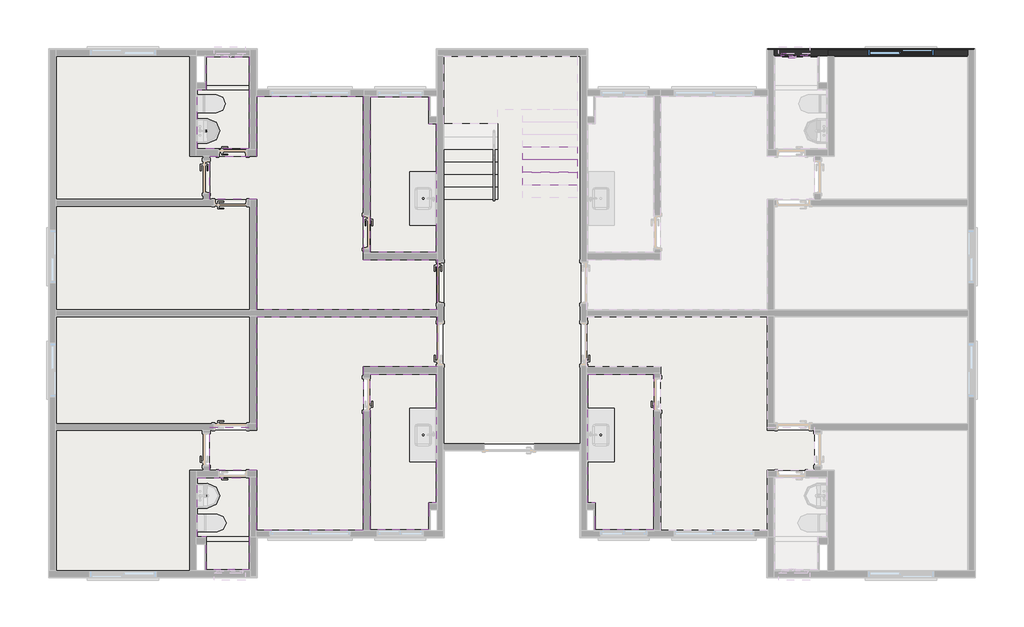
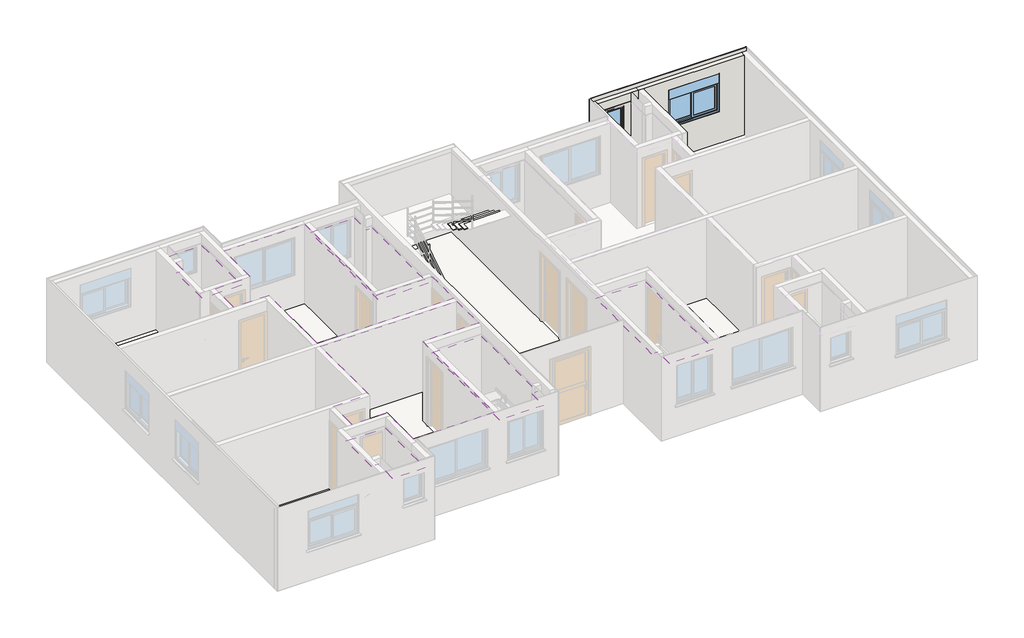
# One storey, part 10 of 11: 27 slabs, 7 coverings, 5 walls, 2 windows.
"""IFC4 building model written with IfcOpenShell, lengths in millimetres."""

from ifc_helpers import new_model, si_unit, frame, origin, origin_with_axes, place, context, project, spatial, polyline, outline, extrude, faceted_brep, transform, mapped, element, save
from components import window_150x120_581fea6a, window_60x80_d31b0025

model = new_model("IFC4")

# Units and contexts
model_context = context("Model", 3, world=origin())
ifc_project = project(units=[si_unit("LENGTHUNIT", "METRE", prefix="MILLI")], contexts=[model_context])

# Site, building, storey
site = spatial("IfcSite", under=ifc_project)
building = spatial("IfcBuilding", under=site)
storey = spatial("IfcBuildingStorey", under=building, Name="Térreo", Elevation=0.0)

# Coverings
placement = place(None, origin())
element("IfcCovering", 1, ObjectType="Forro - Gesso acartonado + Pintura", at=placement, inside=storey, context=model_context, shape_type="Brep", body=[
    faceted_brep([(8536.99631, 1539.9983274, 2201.0), (7233.0017324, 1539.9983274, 2201.0), (7233.0017324, 2145.0132549, 2201.0), (7233.0017324, 5033.6603139, 2201.0), (8709.9963008, 5033.6603139, 2201.0), (8709.9963008, 2145.0132549, 2201.0), (8536.99631, 2145.0132549, 2201.0), (7233.0017324, 1539.9983274, 2221.0), (8536.99631, 1539.9983274, 2221.0), (8536.99631, 2145.0132549, 2221.0), (8709.9963008, 2145.0132549, 2221.0), (8709.9963008, 5033.6603139, 2221.0), (7233.0017324, 5033.6603139, 2221.0), (7233.0017324, 2145.0132549, 2221.0)], [[[0, 1, 2, 3, 4, 5, 6]], [[7, 8, 9, 10, 11, 12, 13]], [[8, 7, 1, 0]], [[9, 8, 0, 6]], [[10, 9, 6, 5]], [[11, 10, 5, 4]], [[12, 11, 4, 3]], [[7, 13, 12, 3, 2, 1]]]),
    faceted_brep([(7233.0017324, 1539.9983274, 2200.0), (8536.99631, 1539.9983274, 2200.0), (8536.99631, 1539.9983274, 2201.0), (7233.0017324, 1539.9983274, 2201.0), (8536.99631, 2145.0132549, 2200.0), (8536.99631, 2145.0132549, 2201.0), (8709.9963008, 2145.0132549, 2200.0), (8709.9963008, 2145.0132549, 2201.0), (8709.9963008, 5033.6603139, 2200.0), (8709.9963008, 5033.6603139, 2201.0), (7233.0017324, 5033.6603139, 2200.0), (7233.0017324, 5033.6603139, 2201.0), (7233.0017324, 2145.0132549, 2200.0), (7233.0017324, 2145.0132549, 2201.0)], [[[0, 1, 2, 3]], [[1, 4, 5, 2]], [[4, 6, 7, 5]], [[6, 8, 9, 7]], [[8, 10, 11, 9]], [[12, 0, 3, 13, 11, 10]], [[3, 2, 5, 7, 9, 11, 13]], [[0, 12, 10, 8, 6, 4, 1]]]),
])
element("IfcCovering", 2, ObjectType="Forro - Gesso acartonado + Pintura", at=placement, inside=storey, context=model_context, shape_type="Brep", body=[
    faceted_brep([(7233.0017324, 11260.0223004, 2201.0), (8536.99631, 11260.0223004, 2201.0), (8536.99631, 10655.0073729, 2201.0), (8709.9963008, 10655.0073729, 2201.0), (8709.9963008, 7766.3603139, 2201.0), (7233.0017324, 7766.3603139, 2201.0), (7233.0017324, 10655.0073729, 2201.0), (7233.0017324, 11260.0223004, 2221.0), (7233.0017324, 10655.0073729, 2221.0), (7233.0017324, 7766.3603139, 2221.0), (8709.9963008, 7766.3603139, 2221.0), (8709.9963008, 10655.0073729, 2221.0), (8536.99631, 10655.0073729, 2221.0), (8536.99631, 11260.0223004, 2221.0)], [[[0, 1, 2, 3, 4, 5, 6]], [[7, 8, 9, 10, 11, 12, 13]], [[7, 13, 1, 0]], [[13, 12, 2, 1]], [[12, 11, 3, 2]], [[11, 10, 4, 3]], [[10, 9, 5, 4]], [[9, 8, 7, 0, 6, 5]]]),
    faceted_brep([(8536.99631, 11260.0223004, 2200.0), (7233.0017324, 11260.0223004, 2200.0), (7233.0017324, 11260.0223004, 2201.0), (8536.99631, 11260.0223004, 2201.0), (8536.99631, 10655.0073729, 2200.0), (8536.99631, 10655.0073729, 2201.0), (8709.9963008, 10655.0073729, 2200.0), (8709.9963008, 10655.0073729, 2201.0), (8709.9963008, 7766.3603139, 2200.0), (8709.9963008, 7766.3603139, 2201.0), (7233.0017324, 7766.3603139, 2200.0), (7233.0017324, 7766.3603139, 2201.0), (7233.0017324, 10655.0073729, 2200.0), (7233.0017324, 10655.0073729, 2201.0)], [[[0, 1, 2, 3]], [[4, 0, 3, 5]], [[6, 4, 5, 7]], [[8, 6, 7, 9]], [[10, 8, 9, 11]], [[12, 10, 11, 13, 2, 1]], [[3, 2, 13, 11, 9, 7, 5]], [[1, 0, 4, 6, 8, 10, 12]]]),
])
element("IfcCovering", 3, ObjectType="Forro - Gesso acartonado + Pintura", at=placement, inside=storey, context=model_context, shape_type="Brep", body=[
    faceted_brep([(3339.9976538, 2709.9967615, 2201.0), (4509.9990083, 2709.9967615, 2201.0), (4509.9990083, 1379.9983274, 2201.0), (4509.9990083, 639.9950349, 2201.0), (3549.99398, 639.9950349, 2201.0), (3549.99398, 1379.9983274, 2201.0), (3339.9976538, 1379.9983274, 2201.0), (4509.9990083, 2709.9967615, 2221.0), (3339.9976538, 2709.9967615, 2221.0), (3339.9976538, 1379.9983274, 2221.0), (3549.99398, 1379.9983274, 2221.0), (3549.99398, 639.9950349, 2221.0), (4509.9990083, 639.9950349, 2221.0), (4509.9990083, 1379.9983274, 2221.0)], [[[0, 1, 2, 3, 4, 5, 6]], [[7, 8, 9, 10, 11, 12, 13]], [[8, 7, 1, 0]], [[9, 8, 0, 6]], [[10, 9, 6, 5]], [[11, 10, 5, 4]], [[12, 11, 4, 3]], [[7, 13, 12, 3, 2, 1]]]),
    faceted_brep([(4509.9990083, 2709.9967615, 2200.0), (3339.9976538, 2709.9967615, 2200.0), (3339.9976538, 2709.9967615, 2201.0), (4509.9990083, 2709.9967615, 2201.0), (3339.9976538, 1379.9983274, 2200.0), (3339.9976538, 1379.9983274, 2201.0), (3549.99398, 1379.9983274, 2200.0), (3549.99398, 1379.9983274, 2201.0), (3549.99398, 639.9950349, 2200.0), (3549.99398, 639.9950349, 2201.0), (4509.9990083, 639.9950349, 2200.0), (4509.9990083, 639.9950349, 2201.0), (4509.9990083, 1379.9983274, 2200.0), (4509.9990083, 1379.9983274, 2201.0)], [[[0, 1, 2, 3]], [[1, 4, 5, 2]], [[4, 6, 7, 5]], [[6, 8, 9, 7]], [[8, 10, 11, 9]], [[12, 0, 3, 13, 11, 10]], [[3, 2, 5, 7, 9, 11, 13]], [[0, 12, 10, 8, 6, 4, 1]]]),
])
element("IfcCovering", 4, ObjectType="Forro - Gesso acartonado + Pintura", at=placement, inside=storey, context=model_context, shape_type="Brep", body=[
    faceted_brep([(4509.9990083, 10090.0238664, 2201.0), (3339.9976538, 10090.0238664, 2201.0), (3339.9976538, 11420.0223004, 2201.0), (3549.99398, 11420.0223004, 2201.0), (3549.99398, 12160.025593, 2201.0), (4509.9990083, 12160.025593, 2201.0), (4509.9990083, 11420.0223004, 2201.0), (4509.9990083, 10090.0238664, 2221.0), (4509.9990083, 11420.0223004, 2221.0), (4509.9990083, 12160.025593, 2221.0), (3549.99398, 12160.025593, 2221.0), (3549.99398, 11420.0223004, 2221.0), (3339.9976538, 11420.0223004, 2221.0), (3339.9976538, 10090.0238664, 2221.0)], [[[0, 1, 2, 3, 4, 5, 6]], [[7, 8, 9, 10, 11, 12, 13]], [[7, 13, 1, 0]], [[13, 12, 2, 1]], [[12, 11, 3, 2]], [[11, 10, 4, 3]], [[10, 9, 5, 4]], [[9, 8, 7, 0, 6, 5]]]),
    faceted_brep([(3339.9976538, 10090.0238664, 2200.0), (4509.9990083, 10090.0238664, 2200.0), (4509.9990083, 10090.0238664, 2201.0), (3339.9976538, 10090.0238664, 2201.0), (3339.9976538, 11420.0223004, 2200.0), (3339.9976538, 11420.0223004, 2201.0), (3549.99398, 11420.0223004, 2200.0), (3549.99398, 11420.0223004, 2201.0), (3549.99398, 12160.025593, 2200.0), (3549.99398, 12160.025593, 2201.0), (4509.9990083, 12160.025593, 2200.0), (4509.9990083, 12160.025593, 2201.0), (4509.9990083, 11420.0223004, 2200.0), (4509.9990083, 11420.0223004, 2201.0)], [[[0, 1, 2, 3]], [[4, 0, 3, 5]], [[6, 4, 5, 7]], [[8, 6, 7, 9]], [[10, 8, 9, 11]], [[12, 10, 11, 13, 2, 1]], [[3, 2, 13, 11, 9, 7, 5]], [[1, 0, 4, 6, 8, 10, 12]]]),
])
element("IfcCovering", 5, ObjectType="Forro - Gesso acartonado + Pintura", at=placement, inside=storey, context=model_context, shape_type="Brep", body=[
    faceted_brep([(13586.992975, 1539.9983274, 2201.0), (12282.9983974, 1539.9983274, 2201.0), (12282.9983974, 2145.0132549, 2201.0), (12109.9984066, 2145.0132549, 2201.0), (12109.9984066, 5033.6603139, 2201.0), (13586.992975, 5033.6603139, 2201.0), (13586.992975, 2145.0132549, 2201.0), (13586.992975, 1539.9983274, 2221.0), (13586.992975, 2145.0132549, 2221.0), (13586.992975, 5033.6603139, 2221.0), (12109.9984066, 5033.6603139, 2221.0), (12109.9984066, 2145.0132549, 2221.0), (12282.9983974, 2145.0132549, 2221.0), (12282.9983974, 1539.9983274, 2221.0)], [[[0, 1, 2, 3, 4, 5, 6]], [[7, 8, 9, 10, 11, 12, 13]], [[7, 13, 1, 0]], [[13, 12, 2, 1]], [[12, 11, 3, 2]], [[11, 10, 4, 3]], [[10, 9, 5, 4]], [[9, 8, 7, 0, 6, 5]]]),
    faceted_brep([(12282.9983974, 1539.9983274, 2200.0), (13586.992975, 1539.9983274, 2200.0), (13586.992975, 1539.9983274, 2201.0), (12282.9983974, 1539.9983274, 2201.0), (12282.9983974, 2145.0132549, 2200.0), (12282.9983974, 2145.0132549, 2201.0), (12109.9984066, 2145.0132549, 2200.0), (12109.9984066, 2145.0132549, 2201.0), (12109.9984066, 5033.6603139, 2200.0), (12109.9984066, 5033.6603139, 2201.0), (13586.992975, 5033.6603139, 2200.0), (13586.992975, 5033.6603139, 2201.0), (13586.992975, 2145.0132549, 2200.0), (13586.992975, 2145.0132549, 2201.0)], [[[0, 1, 2, 3]], [[4, 0, 3, 5]], [[6, 4, 5, 7]], [[8, 6, 7, 9]], [[10, 8, 9, 11]], [[12, 10, 11, 13, 2, 1]], [[3, 2, 13, 11, 9, 7, 5]], [[1, 0, 4, 6, 8, 10, 12]]]),
])
element("IfcCovering", 6, ObjectType="Textura Laje", at=placement, inside=storey, context=model_context, shape_type="SolidModel", body=[
    faceted_brep([(4675.9996867, 8956.0244803, 2510.0), (4675.9996867, 6476.0103139, 2510.0), (8729.9963008, 6476.0103139, 2510.0), (8729.9963008, 7600.3603139, 2510.0), (8709.865378, 7600.3603139, 2510.0), (7066.9986861, 7600.3603139, 2510.0), (7066.9986861, 11274.0223004, 2510.0), (4675.9990083, 11274.0223004, 2510.0), (4675.9990083, 9924.0238664, 2510.0), (3625.9980641, 9924.0238664, 2510.0), (3625.9980641, 8956.0244803, 2510.0), (4675.9996867, 6476.0103139, 2509.0), (4675.9996867, 8956.0244803, 2509.0), (3625.9980641, 8956.0244803, 2509.0), (3625.9980641, 9924.0238664, 2509.0), (4675.9990083, 9924.0238664, 2509.0), (4675.9990083, 11274.0223004, 2509.0), (7066.9986861, 11274.0223004, 2509.0), (7066.9986861, 7600.3603139, 2509.0), (8709.865378, 7600.3603139, 2509.0), (8729.9963008, 7600.3603139, 2509.0), (8729.9963008, 6476.0103139, 2509.0)], [[[0, 1, 2, 3, 4, 5, 6, 7, 8, 9, 10]], [[11, 12, 13, 14, 15, 16, 17, 18, 19, 20, 21]], [[1, 0, 12, 11]], [[2, 1, 11, 21]], [[3, 2, 21, 20]], [[5, 4, 3, 20, 19, 18]], [[6, 5, 18, 17]], [[7, 6, 17, 16]], [[8, 7, 16, 15]], [[9, 8, 15, 14]], [[10, 9, 14, 13]], [[0, 10, 13, 12]]]),
    extrude(outline(polyline([(174.9992567, 6475.0103139), (174.9992567, 8805.0103139), (4524.9996867, 8805.0103139), (4524.9996867, 6475.0103139), (174.9992567, 6475.0103139)])), frame((0.0, 0.0, 2509.0), z_axis=(0.0, 0.0, 1.0), x_axis=(1.0, 0.0, 0.0)), (0.0, 0.0, 1.0), 1.0),
    extrude(outline(polyline([(174.9991825, 12175.0252435), (3174.9977061, 12175.0252435), (3174.9977061, 9925.0238664), (3474.9980641, 9925.0238664), (3474.9980641, 8955.0254246), (174.9991825, 8955.0254246), (174.9991825, 12175.0252435)])), frame((0.0, 0.0, 2509.0), z_axis=(0.0, 0.0, 1.0), x_axis=(1.0, 0.0, 0.0)), (0.0, 0.0, 1.0), 1.0),
    faceted_brep([(4675.9996867, 8956.0244803, 2508.0), (3625.9980641, 8956.0244803, 2508.0), (3625.9980641, 9924.0238664, 2508.0), (4675.9990083, 9924.0238664, 2508.0), (4675.9990083, 11274.0223004, 2508.0), (7066.9986861, 11274.0223004, 2508.0), (7066.9986861, 7600.3603139, 2508.0), (8709.865378, 7600.3603139, 2508.0), (8729.9963008, 7600.3603139, 2508.0), (8729.9963008, 6476.0103139, 2508.0), (4675.9996867, 6476.0103139, 2508.0), (4675.9996867, 8956.0244803, 2509.0), (4675.9996867, 6476.0103139, 2509.0), (8729.9963008, 6476.0103139, 2509.0), (8729.9963008, 7600.3603139, 2509.0), (8709.865378, 7600.3603139, 2509.0), (7066.9986861, 7600.3603139, 2509.0), (7066.9986861, 11274.0223004, 2509.0), (4675.9990083, 11274.0223004, 2509.0), (4675.9990083, 9924.0238664, 2509.0), (3625.9980641, 9924.0238664, 2509.0), (3625.9980641, 8956.0244803, 2509.0)], [[[0, 1, 2, 3, 4, 5, 6, 7, 8, 9, 10]], [[11, 12, 13, 14, 15, 16, 17, 18, 19, 20, 21]], [[0, 10, 12, 11]], [[10, 9, 13, 12]], [[9, 8, 14, 13]], [[7, 6, 16, 15, 14, 8]], [[6, 5, 17, 16]], [[5, 4, 18, 17]], [[4, 3, 19, 18]], [[3, 2, 20, 19]], [[2, 1, 21, 20]], [[1, 0, 11, 21]]]),
    extrude(outline(polyline([(174.9992567, 8805.0103139), (4524.9996867, 8805.0103139), (4524.9996867, 6475.0103139), (174.9992567, 6475.0103139), (174.9992567, 8805.0103139)])), frame((0.0, 0.0, 2508.0), z_axis=(0.0, 0.0, 1.0), x_axis=(1.0, 0.0, 0.0)), (0.0, 0.0, 1.0), 1.0),
    extrude(outline(polyline([(174.9991825, 12175.0252435), (3174.9977061, 12175.0252435), (3174.9977061, 9925.0238664), (3474.9980641, 9925.0238664), (3474.9980641, 8955.0254246), (174.9991825, 8955.0254246), (174.9991825, 12175.0252435)])), frame((0.0, 0.0, 2508.0), z_axis=(0.0, 0.0, 1.0), x_axis=(1.0, 0.0, 0.0)), (0.0, 0.0, 1.0), 1.0),
])
element("IfcCovering", 7, ObjectType="Textura Laje", at=placement, inside=storey, context=model_context, shape_type="SolidModel", body=[
    faceted_brep([(4675.9996867, 3843.9961476, 2510.0), (4675.9996867, 6324.0103139, 2510.0), (4675.9996867, 6324.0103139, 2509.0), (4675.9996867, 3843.9961476, 2509.0), (8729.9963008, 6324.0103139, 2510.0), (8729.9963008, 6324.0103139, 2509.0), (8729.9963008, 5199.6603139, 2510.0), (8729.9963008, 5199.6603139, 2509.0), (7066.9986861, 5199.6603139, 2510.0), (7066.9986861, 1525.9983274, 2510.0), (7066.9986861, 1525.9983274, 2509.0), (7066.9986861, 5199.6603139, 2509.0), (4675.9990083, 1525.9983274, 2510.0), (4675.9990083, 1525.9983274, 2509.0), (4675.9990083, 2875.9967615, 2510.0), (4675.9990083, 2875.9967615, 2509.0), (3625.9980641, 2875.9967615, 2510.0), (3625.9980641, 2875.9967615, 2509.0), (3625.9980641, 3843.9961476, 2510.0), (3625.9980641, 3843.9961476, 2509.0), (8709.865378, 5199.6603139, 2510.0), (8709.865378, 5199.6603139, 2509.0)], [[[0, 1, 2, 3]], [[1, 4, 5, 2]], [[4, 6, 7, 5]], [[8, 9, 10, 11]], [[9, 12, 13, 10]], [[12, 14, 15, 13]], [[14, 16, 17, 15]], [[16, 18, 19, 17]], [[18, 0, 3, 19]], [[6, 20, 8, 11, 21, 7]], [[0, 18, 16, 14, 12, 9, 8, 20, 6, 4, 1]], [[3, 2, 5, 7, 21, 11, 10, 13, 15, 17, 19]]]),
    extrude(outline(polyline([(3174.9977061, 624.9953844), (175.9991825, 624.9953844), (175.9991825, 3773.9951411), (3474.9980641, 3773.9951411), (3474.9980641, 2874.9967615), (3174.9977061, 2874.9967615), (3174.9977061, 624.9953844)])), frame((0.0, 0.0, 2509.0), z_axis=(0.0, 0.0, 1.0), x_axis=(1.0, 0.0, 0.0)), (0.0, 0.0, 1.0), 1.0),
    extrude(outline(polyline([(174.9992567, 3926.5903488), (174.9992567, 6325.0103139), (4524.9996867, 6325.0103139), (4524.9996867, 3926.5903488), (174.9992567, 3926.5903488)])), frame((0.0, 0.0, 2509.0), z_axis=(0.0, 0.0, 1.0), x_axis=(1.0, 0.0, 0.0)), (0.0, 0.0, 1.0), 1.0),
    faceted_brep([(4675.9996867, 6324.0103139, 2508.0), (4675.9996867, 3843.9961476, 2508.0), (4675.9996867, 3843.9961476, 2509.0), (4675.9996867, 6324.0103139, 2509.0), (8729.9963008, 6324.0103139, 2508.0), (8729.9963008, 6324.0103139, 2509.0), (8729.9963008, 5199.6603139, 2508.0), (8729.9963008, 5199.6603139, 2509.0), (7066.9986861, 1525.9983274, 2508.0), (7066.9986861, 5199.6603139, 2508.0), (7066.9986861, 5199.6603139, 2509.0), (7066.9986861, 1525.9983274, 2509.0), (4675.9990083, 1525.9983274, 2508.0), (4675.9990083, 1525.9983274, 2509.0), (4675.9990083, 2875.9967615, 2508.0), (4675.9990083, 2875.9967615, 2509.0), (3625.9980641, 2875.9967615, 2508.0), (3625.9980641, 2875.9967615, 2509.0), (3625.9980641, 3843.9961476, 2508.0), (3625.9980641, 3843.9961476, 2509.0), (8709.865378, 5199.6603139, 2508.0), (8709.865378, 5199.6603139, 2509.0)], [[[0, 1, 2, 3]], [[4, 0, 3, 5]], [[6, 4, 5, 7]], [[8, 9, 10, 11]], [[12, 8, 11, 13]], [[14, 12, 13, 15]], [[16, 14, 15, 17]], [[18, 16, 17, 19]], [[1, 18, 19, 2]], [[1, 0, 4, 6, 20, 9, 8, 12, 14, 16, 18]], [[20, 6, 7, 21, 10, 9]], [[3, 2, 19, 17, 15, 13, 11, 10, 21, 7, 5]]]),
    extrude(outline(polyline([(174.9992567, 3926.5903488), (174.9992567, 6325.0103139), (4524.9996867, 6325.0103139), (4524.9996867, 3926.5903488), (174.9992567, 3926.5903488)])), frame((0.0, 0.0, 2508.0), z_axis=(0.0, 0.0, 1.0), x_axis=(1.0, 0.0, 0.0)), (0.0, 0.0, 1.0), 1.0),
    extrude(outline(polyline([(175.9991825, 624.9953844), (175.9991825, 3773.9951411), (3474.9980641, 3773.9951411), (3474.9980641, 2874.9967615), (3174.9977061, 2874.9967615), (3174.9977061, 624.9953844), (175.9991825, 624.9953844)])), frame((0.0, 0.0, 2508.0), z_axis=(0.0, 0.0, 1.0), x_axis=(1.0, 0.0, 0.0)), (0.0, 0.0, 1.0), 1.0),
])

# Slabs
element("IfcSlab", 8, ObjectType="Pedra Basalto", at=placement, inside=storey, context=model_context, shape_type="SweptSolid", body=[
    extrude(outline(polyline([(4509.99398, 11515.0235306), (4509.99398, 11415.0235306), (3529.99398, 11415.0235306), (3529.99398, 11515.0235306), (4509.99398, 11515.0235306)])), frame((0.0, 0.0, 90.0), z_axis=(0.0, 0.0, 1.0), x_axis=(1.0, 0.0, 0.0)), (0.0, 0.0, 1.0), 20.0),
])
element("IfcSlab", 9, ObjectType="Cerâmica piso + Impermeabilização", at=placement, inside=storey, context=model_context, shape_type="SweptSolid", body=[
    extrude(outline(polyline([(4509.99398, 1294.9970972), (4509.99398, 639.9950349), (3549.99398, 639.9950349), (3549.99398, 1294.9970972), (4509.99398, 1294.9970972)])), frame((0.0, 0.0, -1.0), z_axis=(0.0, 0.0, 1.0), x_axis=(1.0, 0.0, 0.0)), (0.0, 0.0, 1.0), 11.0),
])
element("IfcSlab", 10, ObjectType="Pedra Basalto", at=placement, inside=storey, context=model_context, shape_type="SweptSolid", body=[
    extrude(outline(polyline([(4509.99398, 1284.9970972), (3529.99398, 1284.9970972), (3529.99398, 1384.9970972), (4509.99398, 1384.9970972), (4509.99398, 1284.9970972)])), frame((0.0, 0.0, 90.0), z_axis=(0.0, 0.0, 1.0), x_axis=(1.0, 0.0, 0.0)), (0.0, 0.0, 1.0), 20.0),
])
element("IfcSlab", 11, ObjectType="Cerâmica", at=placement, inside=storey, context=model_context, shape_type="SweptSolid", body=[
    extrude(outline(polyline([(4509.9990083, 1379.9970972), (3339.9976538, 1379.9970972), (3339.9976538, 2709.9967615), (4509.9990083, 2709.9967615), (4509.9990083, 1379.9970972)])), origin_with_axes(), (0.0, 0.0, 1.0), 10.0),
])
element("IfcSlab", 12, ObjectType="Cerâmica", at=placement, inside=storey, context=model_context, shape_type="SweptSolid", body=[
    extrude(outline(polyline([(8709.9963008, 5033.6603139), (8709.9963008, 2145.0132549), (8536.99631, 2145.0132549), (8536.99631, 1539.9983274), (7233.0017324, 1539.9983274), (7233.0017324, 2145.0132549), (7233.0017324, 5033.6603139), (8709.9963008, 5033.6603139)])), origin_with_axes(), (0.0, 0.0, 1.0), 10.0),
])
element("IfcSlab", 13, ObjectType="Cerâmica piso + Impermeabilização", at=placement, inside=storey, context=model_context, shape_type="SweptSolid", body=[
    extrude(outline(polyline([(4509.99398, 11505.0235306), (3549.99398, 11505.0235306), (3549.99398, 12160.025593), (4509.99398, 12160.025593), (4509.99398, 11505.0235306)])), frame((0.0, 0.0, -1.0), z_axis=(0.0, 0.0, 1.0), x_axis=(1.0, 0.0, 0.0)), (0.0, 0.0, 1.0), 11.0),
])
element("IfcSlab", 14, ObjectType="Cerâmica", at=placement, inside=storey, context=model_context, shape_type="SweptSolid", body=[
    extrude(outline(polyline([(4509.9990083, 11420.0235306), (4509.9990083, 10090.0238664), (3339.9976538, 10090.0238664), (3339.9976538, 11420.0235306), (4509.9990083, 11420.0235306)])), origin_with_axes(), (0.0, 0.0, 1.0), 10.0),
])
element("IfcSlab", 15, ObjectType="Cerâmica", at=placement, inside=storey, context=model_context, shape_type="SweptSolid", body=[
    extrude(outline(polyline([(8709.9963008, 7766.3603139), (7233.0017324, 7766.3603139), (7233.0017324, 10655.0073729), (7233.0017324, 11260.0223004), (8536.99631, 11260.0223004), (8536.99631, 10655.0073729), (8709.9963008, 10655.0073729), (8709.9963008, 7766.3603139)])), origin_with_axes(), (0.0, 0.0, 1.0), 10.0),
])
element("IfcSlab", 16, ObjectType="Cerâmica", at=placement, inside=storey, context=model_context, shape_type="SweptSolid", body=[
    extrude(outline(polyline([(8723.9963008, 6324.0103139), (8723.9963008, 5199.6603139), (7066.9986861, 5199.6603139), (7066.9986861, 1519.9983274), (4675.9990083, 1519.9983274), (4675.9990083, 2875.9967615), (3625.9980641, 2875.9967615), (3625.9980641, 3773.9951411), (4675.9996867, 3773.9951411), (4675.9996867, 6324.0103139), (8723.9963008, 6324.0103139)])), origin_with_axes(), (0.0, 0.0, 1.0), 10.0),
])
element("IfcSlab", 17, ObjectType="Vinilico", at=placement, inside=storey, context=model_context, shape_type="SweptSolid", body=[
    extrude(outline(polyline([(4523.9996867, 6324.0103139), (4523.9996867, 3925.9951411), (175.9991825, 3925.9951411), (175.9991825, 6324.0103139), (4523.9996867, 6324.0103139)])), origin_with_axes(), (0.0, 0.0, 1.0), 10.0),
])
element("IfcSlab", 18, ObjectType="Vinilico", at=placement, inside=storey, context=model_context, shape_type="SweptSolid", body=[
    extrude(outline(polyline([(4523.9996867, 8804.0244803), (4523.9996867, 6476.0103139), (175.9991825, 6476.0103139), (175.9991825, 8804.0244803), (4523.9996867, 8804.0244803)])), origin_with_axes(), (0.0, 0.0, 1.0), 10.0),
])
element("IfcSlab", 19, ObjectType="Cerâmica", at=placement, inside=storey, context=model_context, shape_type="SweptSolid", body=[
    extrude(outline(polyline([(8723.9963008, 6476.0103139), (4675.9996867, 6476.0103139), (4675.9996867, 8956.0244803), (3625.9980641, 8956.0244803), (3625.9980641, 9924.0238664), (4675.9990083, 9924.0238664), (4675.9990083, 11280.0223004), (7066.9986861, 11280.0223004), (7066.9986861, 7600.3603139), (8723.9963008, 7600.3603139), (8723.9963008, 6476.0103139)])), origin_with_axes(), (0.0, 0.0, 1.0), 10.0),
])
element("IfcSlab", 20, ObjectType="Vinilico", at=placement, inside=storey, context=model_context, shape_type="SweptSolid", body=[
    extrude(outline(polyline([(175.9991825, 12174.0253822), (3173.9976538, 12174.0253822), (3173.9976538, 9924.0253822), (3473.9976538, 9924.0253822), (3473.9976538, 8954.0253822), (175.9991825, 8954.0253822), (175.9991825, 12174.0253822)])), origin_with_axes(), (0.0, 0.0, 1.0), 10.0),
])
element("IfcSlab", 21, ObjectType="Vinilico", at=placement, inside=storey, context=model_context, shape_type="SweptSolid", body=[
    extrude(outline(polyline([(175.9991825, 625.9952456), (175.9991825, 3845.9952456), (3473.9976538, 3845.9952456), (3473.9976538, 2875.9952456), (3173.9976538, 2875.9952456), (3173.9976538, 625.9952456), (175.9991825, 625.9952456)])), origin_with_axes(), (0.0, 0.0, 1.0), 10.0),
])
element("IfcSlab", 22, ObjectType="Cerâmica", at=placement, inside=storey, context=model_context, shape_type="SweptSolid", body=[
    extrude(outline(polyline([(12109.9984066, 5033.6603139), (13586.992975, 5033.6603139), (13586.992975, 2145.0132549), (13586.992975, 1539.9983274), (12282.9983974, 1539.9983274), (12282.9983974, 2145.0132549), (12109.9984066, 2145.0132549), (12109.9984066, 5033.6603139)])), origin_with_axes(), (0.0, 0.0, 1.0), 10.0),
])
element("IfcSlab", 23, ObjectType="Cerâmica", at=placement, inside=storey, context=model_context, shape_type="SweptSolid", body=[
    extrude(outline(polyline([(12095.9984066, 6324.0103139), (16143.9950207, 6324.0103139), (16143.9950207, 3773.9951411), (17193.9966432, 3773.9951411), (17193.9966432, 2875.9967615), (16143.9956991, 2875.9967615), (16143.9956991, 1519.9983274), (13752.9960213, 1519.9983274), (13752.9960213, 5199.6603139), (12095.9984066, 5199.6603139), (12095.9984066, 6324.0103139)])), origin_with_axes(), (0.0, 0.0, 1.0), 10.0),
])
element("IfcSlab", 24, ObjectType="Soleira", at=placement, inside=storey, context=model_context, shape_type="SweptSolid", body=[
    extrude(outline(polyline([(4467.999908, 8956.0244803), (4467.999908, 8804.0244803), (3717.999908, 8804.0244803), (3717.999908, 8956.0244803), (4467.999908, 8956.0244803)])), origin_with_axes(), (0.0, 0.0, 1.0), 10.0),
])
element("IfcSlab", 25, ObjectType="Soleira", at=placement, inside=storey, context=model_context, shape_type="SweptSolid", body=[
    extrude(outline(polyline([(3625.9980641, 9832.0248023), (3625.9980641, 9082.0248023), (3473.9980641, 9082.0248023), (3473.9980641, 9832.0248023), (3625.9980641, 9832.0248023)])), origin_with_axes(), (0.0, 0.0, 1.0), 10.0),
    extrude(outline(polyline([(4462.9990083, 10090.0238664), (4462.9990083, 9924.0238664), (3812.9990083, 9924.0238664), (3812.9990083, 10090.0238664), (4462.9990083, 10090.0238664)])), origin_with_axes(), (0.0, 0.0, 1.0), 10.0),
])
element("IfcSlab", 26, ObjectType="Soleira", at=placement, inside=storey, context=model_context, shape_type="SweptSolid", body=[
    extrude(outline(polyline([(7233.0017324, 8596.3603139), (7233.0017324, 7846.3603139), (7066.9986861, 7846.3603139), (7066.9986861, 8596.3603139), (7233.0017324, 8596.3603139)])), origin_with_axes(), (0.0, 0.0, 1.0), 10.0),
    extrude(outline(polyline([(8723.9963008, 7560.0103139), (8875.9991022, 7560.0103139), (8875.9991022, 6610.0103139), (8723.9963008, 6610.0103139), (8723.9963008, 7560.0103139)])), origin_with_axes(), (0.0, 0.0, 1.0), 10.0),
])
element("IfcSlab", 27, ObjectType="Degrau escada", at=placement, inside=storey, context=model_context, shape_type="SweptSolid", body=[
    extrude(outline(polyline([(10094.9954646, 9535.5366253), (10094.9954646, 9240.5366053), (8879.9954646, 9240.5366053), (8879.9954646, 9535.5366253), (10094.9954646, 9535.5366253)])), frame((0.0, 0.0, 350.6), z_axis=(0.0, 0.0, 1.0), x_axis=(1.0, 0.0, 0.0)), (0.0, 0.0, 1.0), 20.0),
])
element("IfcSlab", 28, ObjectType="Degrau escada", at=placement, inside=storey, context=model_context, shape_type="SweptSolid", body=[
    extrude(outline(polyline([(10094.9954646, 9815.5366253), (10094.9954646, 9520.5366053), (8879.9954646, 9520.5366053), (8879.9954646, 9815.5366253), (10094.9954646, 9815.5366253)])), frame((0.0, 0.0, 525.9), z_axis=(0.0, 0.0, 1.0), x_axis=(1.0, 0.0, 0.0)), (0.0, 0.0, 1.0), 20.0),
])
element("IfcSlab", 29, ObjectType="Degrau escada", at=placement, inside=storey, context=model_context, shape_type="SweptSolid", body=[
    extrude(outline(polyline([(10094.9954646, 10095.5366253), (10094.9954646, 9800.5366053), (8879.9954646, 9800.5366053), (8879.9954646, 10095.5366253), (10094.9954646, 10095.5366253)])), frame((0.0, 0.0, 701.2), z_axis=(0.0, 0.0, 1.0), x_axis=(1.0, 0.0, 0.0)), (0.0, 0.0, 1.0), 20.0),
])
element("IfcSlab", 30, ObjectType="Degrau escada", at=placement, inside=storey, context=model_context, shape_type="SweptSolid", body=[
    extrude(outline(polyline([(10094.9954646, 9255.5366253), (10094.9954646, 8960.5366053), (8879.9954646, 8960.5366053), (8879.9954646, 9255.5366253), (10094.9954646, 9255.5366253)])), frame((0.0, 0.0, 175.3), z_axis=(0.0, 0.0, 1.0), x_axis=(1.0, 0.0, 0.0)), (0.0, 0.0, 1.0), 20.0),
])
element("IfcSlab", 31, ObjectType="Degrau escada", at=placement, inside=storey, context=model_context, shape_type="SweptSolid", body=[
    extrude(outline(polyline([(11869.9958537, 10139.9988327), (11869.9958537, 9844.9988127), (10654.9958537, 9844.9988127), (10654.9958537, 10139.9988327), (11869.9958537, 10139.9988327)])), frame((0.0, 0.0, 1928.3), z_axis=(0.0, 0.0, 1.0), x_axis=(1.0, 0.0, 0.0)), (0.0, 0.0, 1.0), 20.0),
])
element("IfcSlab", 32, ObjectType="Degrau escada", at=placement, inside=storey, context=model_context, shape_type="SweptSolid", body=[
    extrude(outline(polyline([(11869.9958537, 9854.9988327), (11869.9958537, 9559.9988127), (10654.9958537, 9559.9988127), (10654.9958537, 9854.9988327), (11869.9958537, 9854.9988327)])), frame((0.0, 0.0, 2103.6), z_axis=(0.0, 0.0, 1.0), x_axis=(1.0, 0.0, 0.0)), (0.0, 0.0, 1.0), 20.0),
])
element("IfcSlab", 33, ObjectType="Degrau escada", at=placement, inside=storey, context=model_context, shape_type="SweptSolid", body=[
    extrude(outline(polyline([(11869.9958537, 9574.9988327), (11869.9958537, 9279.9988127), (10654.9958537, 9279.9988127), (10654.9958537, 9574.9988327), (11869.9958537, 9574.9988327)])), frame((0.0, 0.0, 2278.9), z_axis=(0.0, 0.0, 1.0), x_axis=(1.0, 0.0, 0.0)), (0.0, 0.0, 1.0), 20.0),
])
element("IfcSlab", 34, ObjectType="Porcelanato", at=placement, inside=storey, context=model_context, shape_type="SweptSolid", body=[
    extrude(outline(polyline([(11949.9956991, 3470.00443), (8869.9991022, 3470.00443), (8869.9991022, 12179.9988127), (11949.9956991, 12179.9988127), (11949.9956991, 3470.00443)])), origin_with_axes(), (0.0, 0.0, 1.0), 10.0),
])

# Walls
element("IfcWall", 35, ObjectType="Alvenaria Estrutural", at=placement, inside=storey, context=model_context, shape_type="Brep", body=[
    faceted_brep([(20649.9955249, 12320.0252435, 0.0), (17499.9970013, 12320.0252435, 0.0), (17499.9970013, 12320.0252435, 2510.0), (20649.9955249, 12320.0252435, 2510.0), (18394.9962631, 12320.0252435, 2200.0), (18394.9962631, 12320.0252435, 1000.0), (18344.9962631, 12320.0252435, 1000.0), (18344.9962631, 12320.0252435, 951.3083694), (19944.9962631, 12320.0252435, 951.3083694), (19944.9962631, 12320.0252435, 1000.0), (19894.9962631, 12320.0252435, 1000.0), (19894.9962631, 12320.0252435, 2200.0), (17499.9970013, 12180.0252435, 0.0), (17639.9970013, 12180.0252435, 0.0), (20643.9955249, 12180.0252435, 0.0), (20649.9955249, 12180.0252435, 0.0), (20649.9955249, 12180.0252435, 2510.0), (20643.9955249, 12180.0252435, 2510.0), (17639.9970013, 12180.0252435, 2510.0), (17499.9970013, 12180.0252435, 2510.0), (18394.9962631, 12180.0252435, 1000.0), (18394.9962631, 12180.0252435, 2200.0), (19894.9962631, 12180.0252435, 2200.0), (19894.9962631, 12180.0252435, 1000.0), (18394.9962631, 12222.5252435, 1000.0), (19894.9962631, 12222.5252435, 1000.0), (19944.9962631, 12222.5252435, 972.0326341), (19944.9962631, 12222.5252435, 1000.0), (18344.9962631, 12222.5252435, 1000.0), (18344.9962631, 12222.5252435, 972.0326341)], [[[0, 1, 2, 3], [4, 5, 6, 7, 8, 9, 10, 11]], [[12, 13, 14, 15, 16, 17, 18, 19], [20, 21, 22, 23]], [[1, 0, 15, 14, 13, 12]], [[3, 2, 19, 18, 17, 16]], [[5, 4, 21, 20, 24]], [[4, 11, 22, 21]], [[11, 10, 25, 23, 22]], [[20, 23, 25, 24]], [[9, 8, 26, 27]], [[7, 6, 28, 29]], [[24, 25, 27, 26, 29, 28]], [[10, 9, 27, 25]], [[8, 7, 29, 26]], [[2, 1, 12, 19]], [[0, 3, 16, 15]], [[6, 5, 24, 28]]]),
    faceted_brep([(17499.9970013, 12320.0252435, 0.0), (20649.9955249, 12320.0252435, 0.0), (20649.9955249, 12180.0252435, 0.0), (20643.9955249, 12180.0252435, 0.0), (17639.9970013, 12180.0252435, 0.0), (17499.9970013, 12180.0252435, 0.0), (20649.9955249, 12320.0252435, 2510.0), (17499.9970013, 12320.0252435, 2510.0), (17499.9970013, 12180.0252435, 2510.0), (17639.9970013, 12180.0252435, 2510.0), (20643.9955249, 12180.0252435, 2510.0), (20649.9955249, 12180.0252435, 2510.0), (18394.9962631, 12320.0252435, 1000.0), (18394.9962631, 12320.0252435, 2200.0), (18394.9962631, 12180.0252435, 2200.0), (18394.9962631, 12180.0252435, 1000.0), (18394.9962631, 12222.5252435, 1000.0), (19894.9962631, 12320.0252435, 2200.0), (19894.9962631, 12180.0252435, 2200.0), (19894.9962631, 12320.0252435, 1000.0), (19894.9962631, 12222.5252435, 1000.0), (19894.9962631, 12180.0252435, 1000.0), (19944.9962631, 12320.0252435, 1000.0), (19944.9962631, 12320.0252435, 951.3083694), (19944.9962631, 12222.5252435, 972.0326341), (19944.9962631, 12222.5252435, 1000.0), (18344.9962631, 12320.0252435, 951.3083694), (18344.9962631, 12320.0252435, 1000.0), (18344.9962631, 12222.5252435, 1000.0), (18344.9962631, 12222.5252435, 972.0326341)], [[[0, 1, 2, 3, 4, 5]], [[6, 7, 8, 9, 10, 11]], [[12, 13, 14, 15, 16]], [[13, 17, 18, 14]], [[17, 19, 20, 21, 18]], [[15, 21, 20, 16]], [[22, 23, 24, 25]], [[26, 27, 28, 29]], [[16, 20, 25, 24, 29, 28]], [[19, 22, 25, 20]], [[23, 26, 29, 24]], [[27, 12, 16, 28]], [[5, 4, 3, 2, 11, 10, 9, 8], [15, 14, 18, 21]], [[1, 0, 7, 6], [13, 12, 27, 26, 23, 22, 19, 17]], [[7, 0, 5, 8]], [[1, 6, 11, 2]]]),
])
element("IfcWall", 36, ObjectType="Alvenaria Estrutural", at=placement, inside=storey, context=model_context, shape_type="Brep", body=[
    faceted_brep([(17499.9970013, 12320.025593, 0.0), (16289.9960602, 12320.025593, 0.0), (16289.9960602, 12320.025593, 2510.0), (17499.9970013, 12320.025593, 2510.0), (17099.9960602, 12320.025593, 1351.3083694), (17099.9960602, 12320.025593, 1400.0), (17049.9960602, 12320.025593, 1400.0), (17049.9960602, 12320.025593, 2200.0), (16449.9960602, 12320.025593, 2200.0), (16449.9960602, 12320.025593, 1400.0), (16399.9960602, 12320.025593, 1400.0), (16399.9960602, 12320.025593, 1351.3083694), (16289.9960602, 12180.025593, 0.0), (16309.9956991, 12180.025593, 0.0), (17280.0007274, 12180.025593, 0.0), (17303.0007274, 12180.025593, 0.0), (17499.9970013, 12180.025593, 0.0), (17499.9970013, 12180.025593, 2510.0), (17303.0007274, 12180.025593, 2510.0), (17280.0007274, 12180.025593, 2510.0), (16289.9960602, 12180.025593, 2510.0), (16289.9960602, 12180.025593, 2250.0), (16449.9960602, 12180.025593, 1400.0), (16449.9960602, 12180.025593, 2200.0), (17049.9960602, 12180.025593, 2200.0), (17049.9960602, 12180.025593, 1400.0), (17099.9960602, 12222.525593, 1372.0326341), (17099.9960602, 12222.525593, 1400.0), (16399.9960602, 12222.525593, 1400.0), (16399.9960602, 12222.525593, 1372.0326341), (16449.9960602, 12222.525593, 1400.0), (17049.9960602, 12222.525593, 1400.0)], [[[0, 1, 2, 3], [4, 5, 6, 7, 8, 9, 10, 11]], [[12, 13, 14, 15, 16, 17, 18, 19, 20, 21], [22, 23, 24, 25]], [[1, 0, 16, 15, 14, 13, 12]], [[3, 2, 20, 19, 18, 17]], [[5, 4, 26, 27]], [[11, 10, 28, 29]], [[27, 26, 29, 28, 30, 31]], [[6, 5, 27, 31]], [[4, 11, 29, 26]], [[9, 8, 23, 22, 30]], [[8, 7, 24, 23]], [[7, 6, 31, 25, 24]], [[22, 25, 31, 30]], [[0, 3, 17, 16]], [[2, 1, 12, 21, 20]], [[10, 9, 30, 28]]]),
    faceted_brep([(16289.9960602, 12320.025593, 0.0), (17499.9970013, 12320.025593, 0.0), (17499.9970013, 12180.025593, 0.0), (17303.0007274, 12180.025593, 0.0), (17280.0007274, 12180.025593, 0.0), (16309.9956991, 12180.025593, 0.0), (16289.9960602, 12180.025593, 0.0), (17499.9970013, 12320.025593, 2510.0), (16289.9960602, 12320.025593, 2510.0), (16289.9960602, 12180.025593, 2510.0), (17280.0007274, 12180.025593, 2510.0), (17303.0007274, 12180.025593, 2510.0), (17499.9970013, 12180.025593, 2510.0), (17099.9960602, 12320.025593, 1400.0), (17099.9960602, 12320.025593, 1351.3083694), (17099.9960602, 12222.525593, 1372.0326341), (17099.9960602, 12222.525593, 1400.0), (16399.9960602, 12320.025593, 1351.3083694), (16399.9960602, 12320.025593, 1400.0), (16399.9960602, 12222.525593, 1400.0), (16399.9960602, 12222.525593, 1372.0326341), (16449.9960602, 12222.525593, 1400.0), (17049.9960602, 12222.525593, 1400.0), (17049.9960602, 12320.025593, 1400.0), (16449.9960602, 12320.025593, 1400.0), (16449.9960602, 12320.025593, 2200.0), (16449.9960602, 12180.025593, 2200.0), (16449.9960602, 12180.025593, 1400.0), (17049.9960602, 12320.025593, 2200.0), (17049.9960602, 12180.025593, 2200.0), (17049.9960602, 12180.025593, 1400.0), (16289.9960602, 12180.025593, 2250.0)], [[[0, 1, 2, 3, 4, 5, 6]], [[7, 8, 9, 10, 11, 12]], [[13, 14, 15, 16]], [[17, 18, 19, 20]], [[16, 15, 20, 19, 21, 22]], [[23, 13, 16, 22]], [[14, 17, 20, 15]], [[24, 25, 26, 27, 21]], [[25, 28, 29, 26]], [[28, 23, 22, 30, 29]], [[27, 30, 22, 21]], [[18, 24, 21, 19]], [[1, 0, 8, 7], [14, 13, 23, 28, 25, 24, 18, 17]], [[6, 5, 4, 3, 2, 12, 11, 10, 9, 31], [27, 26, 29, 30]], [[1, 7, 12, 2]], [[8, 0, 6, 31, 9]]]),
])
element("IfcWall", 37, ObjectType="Azulejo", at=placement, inside=storey, context=model_context, shape_type="SolidModel", body=[
    faceted_brep([(17270.0007274, 12160.025593, 0.0), (16309.9956991, 12160.025593, 0.0), (16309.9956991, 12170.025593, 0.0), (17280.0007274, 12170.025593, 0.0), (17280.0007274, 12160.025593, 0.0), (17270.0007274, 12160.025593, 2250.0), (17280.0007274, 12160.025593, 2250.0), (17280.0007274, 12170.025593, 2250.0), (16309.9956991, 12170.025593, 2250.0), (16309.9956991, 12160.025593, 2250.0), (16449.9960602, 12160.025593, 2200.0), (16449.9960602, 12160.025593, 1400.0), (16449.9960602, 12170.025593, 1400.0), (16449.9960602, 12170.025593, 2200.0), (17049.9960602, 12160.025593, 2200.0), (17049.9960602, 12170.025593, 2200.0), (17049.9960602, 12160.025593, 1400.0), (17049.9960602, 12170.025593, 1400.0)], [[[0, 1, 2, 3, 4]], [[5, 6, 7, 8, 9]], [[10, 11, 12, 13]], [[14, 10, 13, 15]], [[16, 14, 15, 17]], [[11, 16, 17, 12]], [[1, 9, 8, 2]], [[6, 4, 3, 7]], [[3, 2, 8, 7], [13, 12, 17, 15]], [[1, 0, 4, 6, 5, 9], [11, 10, 14, 16]]]),
    extrude(outline(polyline([(0.0, 16299.9956991), (0.0, 17280.0007274), (2250.0, 17280.0007274), (2250.0, 16299.9956991), (0.0, 16299.9956991)]), holes=[polyline([(1400.0, 16449.9960602), (2200.0, 16449.9960602), (2200.0, 17049.9960602), (1400.0, 17049.9960602), (1400.0, 16449.9960602)])]), frame((0.0, 12170.025593, 0.0), z_axis=(0.0, 1.0, 0.0), x_axis=(0.0, 0.0, 1.0)), (0.0, 0.0, 1.0), 10.0),
])
element("IfcWall", 38, ObjectType="Gesso Liso + Pintura", at=placement, inside=storey, context=model_context, shape_type="SolidModel", body=[
    faceted_brep([(20643.9955249, 12175.0253822, 0.0), (20643.9955249, 12174.0253822, 0.0), (17645.9970535, 12174.0253822, 0.0), (17644.9970535, 12174.0253822, 0.0), (17644.9970535, 12175.0253822, 0.0), (17645.9970535, 12174.0253822, 2510.0), (20643.9955249, 12174.0253822, 2510.0), (20643.9955249, 12175.0253822, 2510.0), (17644.9970535, 12175.0253822, 2510.0), (17644.9970535, 12174.0253822, 2510.0), (18394.9962631, 12174.0253822, 2200.0), (18394.9962631, 12174.0253822, 1000.0), (18394.9962631, 12175.0253822, 1000.0), (18394.9962631, 12175.0253822, 2200.0), (19894.9962631, 12175.0253822, 2200.0), (19894.9962631, 12174.0253822, 2200.0), (19894.9962631, 12175.0253822, 1000.0), (19894.9962631, 12174.0253822, 1000.0)], [[[0, 1, 2, 3, 4]], [[5, 6, 7, 8, 9]], [[10, 11, 12, 13]], [[10, 13, 14, 15]], [[15, 14, 16, 17]], [[12, 11, 17, 16]], [[1, 0, 7, 6]], [[7, 0, 4, 8], [13, 12, 16, 14]], [[2, 1, 6, 5, 9, 3], [11, 10, 15, 17]], [[4, 3, 9, 8]]]),
    extrude(outline(polyline([(0.0, 17639.9970013), (0.0, 20644.9955249), (2510.0, 20644.9955249), (2510.0, 17639.9970013), (0.0, 17639.9970013)]), holes=[polyline([(1000.0, 18394.9962631), (2200.0, 18394.9962631), (2200.0, 19894.9962631), (1000.0, 19894.9962631), (1000.0, 18394.9962631)])]), frame((0.0, 12175.0253822, 0.0), z_axis=(0.0, 1.0, 0.0), x_axis=(0.0, 0.0, 1.0)), (0.0, 0.0, 1.0), 5.0),
])
element("IfcWall", 39, ObjectType="Reboco + Pintura Externa", at=placement, inside=storey, context=model_context, shape_type="SolidModel", body=[
    extrude(outline(polyline([(0.0, 16133.9970535), (0.0, 20804.9970535), (2630.0, 20804.9970535), (2630.0, 16133.9970535), (0.0, 16133.9970535)]), holes=[polyline([(1000.0, 18394.9962631), (2200.0, 18394.9962631), (2200.0, 19894.9962631), (1000.0, 19894.9962631), (1000.0, 18394.9962631)]), polyline([(1400.0, 16449.9960602), (2200.0, 16449.9960602), (2200.0, 17049.9960602), (1400.0, 17049.9960602), (1400.0, 16449.9960602)])]), frame((0.0, 12334.9952456, 0.0), z_axis=(0.0, 1.0, 0.0), x_axis=(0.0, 0.0, 1.0)), (0.0, 0.0, 1.0), 1.0),
    faceted_brep([(20789.9970535, 12324.9952456, 0.0), (16144.9970535, 12324.9952456, 0.0), (16144.9970535, 12324.9952456, 2630.0), (20789.9970535, 12324.9952456, 2630.0), (18394.9962631, 12324.9952456, 2200.0), (18394.9962631, 12324.9952456, 1000.0), (19894.9962631, 12324.9952456, 1000.0), (19894.9962631, 12324.9952456, 2200.0), (16449.9960602, 12324.9952456, 2200.0), (16449.9960602, 12324.9952456, 1400.0), (17049.9960602, 12324.9952456, 1400.0), (17049.9960602, 12324.9952456, 2200.0), (16149.9970535, 12319.9952456, 0.0), (16144.9970535, 12319.9952456, 0.0), (20789.9970535, 12319.9952456, 0.0), (17499.9970013, 12319.9952456, 0.0), (16289.9960602, 12319.9952456, 0.0), (16149.9970535, 12319.9952456, 2630.0), (20789.9970535, 12319.9952456, 2630.0), (16144.9970535, 12319.9952456, 2630.0), (16449.9960602, 12319.9952456, 2200.0), (16449.9960602, 12319.9952456, 1400.0), (17049.9960602, 12319.9952456, 2200.0), (17049.9960602, 12319.9952456, 1400.0), (18394.9962631, 12319.9952456, 2200.0), (18394.9962631, 12319.9952456, 1000.0), (19894.9962631, 12319.9952456, 2200.0), (19894.9962631, 12319.9952456, 1000.0)], [[[0, 1, 2, 3], [4, 5, 6, 7], [8, 9, 10, 11]], [[12, 13, 1, 0, 14, 15, 16]], [[17, 18, 3, 2, 19]], [[20, 21, 9, 8]], [[22, 20, 8, 11]], [[23, 22, 11, 10]], [[21, 23, 10, 9]], [[24, 25, 5, 4]], [[26, 24, 4, 7]], [[27, 26, 7, 6]], [[25, 27, 6, 5]], [[18, 14, 0, 3]], [[14, 18, 17, 19, 13, 12, 16, 15], [21, 20, 22, 23], [25, 24, 26, 27]], [[13, 19, 2, 1]]]),
    extrude(outline(polyline([(0.0, 16134.9970535), (0.0, 20794.9970535), (2630.0, 20794.9970535), (2630.0, 16134.9970535), (0.0, 16134.9970535)]), holes=[polyline([(1000.0, 18394.9962631), (2200.0, 18394.9962631), (2200.0, 19894.9962631), (1000.0, 19894.9962631), (1000.0, 18394.9962631)]), polyline([(1400.0, 16449.9960602), (2200.0, 16449.9960602), (2200.0, 17049.9960602), (1400.0, 17049.9960602), (1400.0, 16449.9960602)])]), frame((0.0, 12324.9952456, 0.0), z_axis=(0.0, 1.0, 0.0), x_axis=(0.0, 0.0, 1.0)), (0.0, 0.0, 1.0), 10.0),
])

# Windows
window_150x120_shape = window_150x120_581fea6a(model_context)
element("IfcWindow", 40, ObjectType="Veneziana - 2 Painéis : 150x120", at=placement, inside=storey, context=model_context, shape_type="MappedRepresentation", body=[
    mapped(window_150x120_shape, transform((19144.9962631, 12250.0252435, 350.0), x_axis=(1.0, 0.0, 0.0), y_axis=(0.0, 1.0, 0.0), z_axis=(0.0, 0.0, 1.0))),
])
window_60x80_shape = window_60x80_d31b0025(model_context)
element("IfcWindow", 41, ObjectType="Janela Maxim-ar : 60x80", at=placement, inside=storey, context=model_context, shape_type="MappedRepresentation", body=[
    mapped(window_60x80_shape, transform((16749.9960602, 12250.025593, 750.0), x_axis=(1.0, 0.0, 0.0), y_axis=(0.0, 1.0, 0.0), z_axis=(0.0, 0.0, 1.0))),
])

save(model, "model.ifc")
